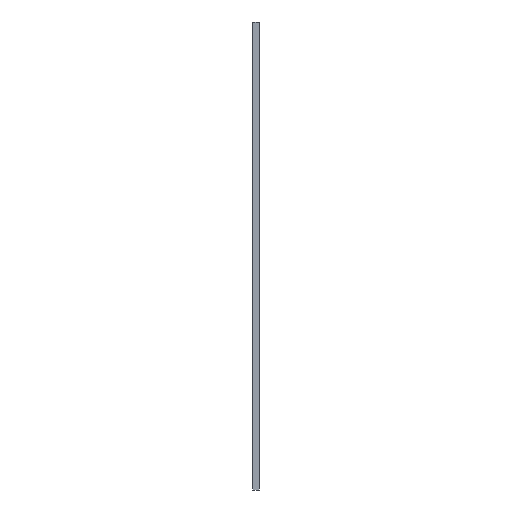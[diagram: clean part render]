
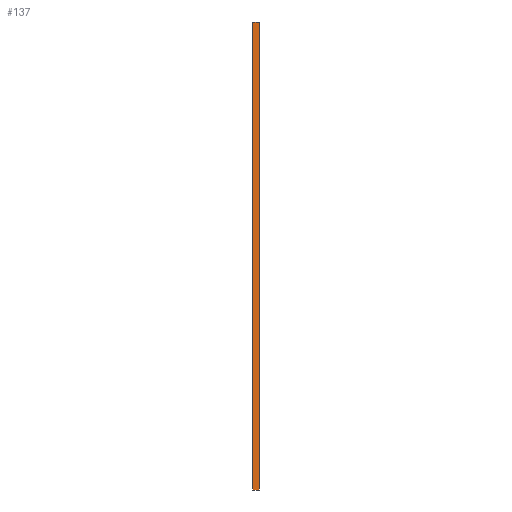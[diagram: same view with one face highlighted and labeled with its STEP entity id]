
A CAD part, left-side view. The second image highlights one B-rep face of the part: STEP entity #137.
In plain terms, the highlighted planar face has unit normal (-1, 0, 0).
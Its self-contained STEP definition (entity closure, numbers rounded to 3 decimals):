
#21 = EDGE_CURVE('',#22,#24,#26,.T.);
#22 = VERTEX_POINT('',#23);
#23 = CARTESIAN_POINT('',(-150.,-2.,-136.));
#24 = VERTEX_POINT('',#25);
#25 = CARTESIAN_POINT('',(-150.,2.,-136.));
#26 = SURFACE_CURVE('',#27,(#31,#43),.PCURVE_S1.);
#27 = LINE('',#28,#29);
#28 = CARTESIAN_POINT('',(-150.,-2.,-136.));
#29 = VECTOR('',#30,1.);
#30 = DIRECTION('',(0.,1.,0.));
#31 = PCURVE('',#32,#37);
#32 = PLANE('',#33);
#33 = AXIS2_PLACEMENT_3D('',#34,#35,#36);
#34 = CARTESIAN_POINT('',(-150.,0.,-136.));
#35 = DIRECTION('',(-0.,0.,1.));
#36 = DIRECTION('',(1.,0.,0.));
#37 = DEFINITIONAL_REPRESENTATION('',(#38),#42);
#38 = LINE('',#39,#40);
#39 = CARTESIAN_POINT('',(0.,-2.));
#40 = VECTOR('',#41,1.);
#41 = DIRECTION('',(0.,1.));
#42 = ( GEOMETRIC_REPRESENTATION_CONTEXT(2) 
PARAMETRIC_REPRESENTATION_CONTEXT() REPRESENTATION_CONTEXT('2D SPACE',''
  ) );
#43 = PCURVE('',#44,#49);
#44 = PLANE('',#45);
#45 = AXIS2_PLACEMENT_3D('',#46,#47,#48);
#46 = CARTESIAN_POINT('',(-150.,0.,136.));
#47 = DIRECTION('',(1.,0.,0.));
#48 = DIRECTION('',(0.,0.,-1.));
#49 = DEFINITIONAL_REPRESENTATION('',(#50),#54);
#50 = LINE('',#51,#52);
#51 = CARTESIAN_POINT('',(272.,-2.));
#52 = VECTOR('',#53,1.);
#53 = DIRECTION('',(0.,1.));
#54 = ( GEOMETRIC_REPRESENTATION_CONTEXT(2) 
PARAMETRIC_REPRESENTATION_CONTEXT() REPRESENTATION_CONTEXT('2D SPACE',''
  ) );
#72 = PLANE('',#73);
#73 = AXIS2_PLACEMENT_3D('',#74,#75,#76);
#74 = CARTESIAN_POINT('',(-17.256,-2.,0.));
#75 = DIRECTION('',(-0.,-1.,-0.));
#76 = DIRECTION('',(0.,0.,-1.));
#126 = PLANE('',#127);
#127 = AXIS2_PLACEMENT_3D('',#128,#129,#130);
#128 = CARTESIAN_POINT('',(-17.256,2.,0.));
#129 = DIRECTION('',(-0.,-1.,-0.));
#130 = DIRECTION('',(0.,0.,-1.));
#137 = ADVANCED_FACE('',(#138),#44,.F.);
#138 = FACE_BOUND('',#139,.F.);
#139 = EDGE_LOOP('',(#140,#170,#191,#192));
#140 = ORIENTED_EDGE('',*,*,#141,.F.);
#141 = EDGE_CURVE('',#142,#144,#146,.T.);
#142 = VERTEX_POINT('',#143);
#143 = CARTESIAN_POINT('',(-150.,-2.,136.));
#144 = VERTEX_POINT('',#145);
#145 = CARTESIAN_POINT('',(-150.,2.,136.));
#146 = SURFACE_CURVE('',#147,(#151,#158),.PCURVE_S1.);
#147 = LINE('',#148,#149);
#148 = CARTESIAN_POINT('',(-150.,-2.,136.));
#149 = VECTOR('',#150,1.);
#150 = DIRECTION('',(0.,1.,0.));
#151 = PCURVE('',#44,#152);
#152 = DEFINITIONAL_REPRESENTATION('',(#153),#157);
#153 = LINE('',#154,#155);
#154 = CARTESIAN_POINT('',(0.,-2.));
#155 = VECTOR('',#156,1.);
#156 = DIRECTION('',(0.,1.));
#157 = ( GEOMETRIC_REPRESENTATION_CONTEXT(2) 
PARAMETRIC_REPRESENTATION_CONTEXT() REPRESENTATION_CONTEXT('2D SPACE',''
  ) );
#158 = PCURVE('',#159,#164);
#159 = PLANE('',#160);
#160 = AXIS2_PLACEMENT_3D('',#161,#162,#163);
#161 = CARTESIAN_POINT('',(78.,0.,136.));
#162 = DIRECTION('',(-0.,-0.,-1.));
#163 = DIRECTION('',(-1.,0.,0.));
#164 = DEFINITIONAL_REPRESENTATION('',(#165),#169);
#165 = LINE('',#166,#167);
#166 = CARTESIAN_POINT('',(228.,-2.));
#167 = VECTOR('',#168,1.);
#168 = DIRECTION('',(0.,1.));
#169 = ( GEOMETRIC_REPRESENTATION_CONTEXT(2) 
PARAMETRIC_REPRESENTATION_CONTEXT() REPRESENTATION_CONTEXT('2D SPACE',''
  ) );
#170 = ORIENTED_EDGE('',*,*,#171,.T.);
#171 = EDGE_CURVE('',#142,#22,#172,.T.);
#172 = SURFACE_CURVE('',#173,(#177,#184),.PCURVE_S1.);
#173 = LINE('',#174,#175);
#174 = CARTESIAN_POINT('',(-150.,-2.,136.));
#175 = VECTOR('',#176,1.);
#176 = DIRECTION('',(0.,0.,-1.));
#177 = PCURVE('',#44,#178);
#178 = DEFINITIONAL_REPRESENTATION('',(#179),#183);
#179 = LINE('',#180,#181);
#180 = CARTESIAN_POINT('',(0.,-2.));
#181 = VECTOR('',#182,1.);
#182 = DIRECTION('',(1.,0.));
#183 = ( GEOMETRIC_REPRESENTATION_CONTEXT(2) 
PARAMETRIC_REPRESENTATION_CONTEXT() REPRESENTATION_CONTEXT('2D SPACE',''
  ) );
#184 = PCURVE('',#72,#185);
#185 = DEFINITIONAL_REPRESENTATION('',(#186),#190);
#186 = LINE('',#187,#188);
#187 = CARTESIAN_POINT('',(-136.,-132.744));
#188 = VECTOR('',#189,1.);
#189 = DIRECTION('',(1.,0.));
#190 = ( GEOMETRIC_REPRESENTATION_CONTEXT(2) 
PARAMETRIC_REPRESENTATION_CONTEXT() REPRESENTATION_CONTEXT('2D SPACE',''
  ) );
#191 = ORIENTED_EDGE('',*,*,#21,.T.);
#192 = ORIENTED_EDGE('',*,*,#193,.F.);
#193 = EDGE_CURVE('',#144,#24,#194,.T.);
#194 = SURFACE_CURVE('',#195,(#199,#206),.PCURVE_S1.);
#195 = LINE('',#196,#197);
#196 = CARTESIAN_POINT('',(-150.,2.,136.));
#197 = VECTOR('',#198,1.);
#198 = DIRECTION('',(0.,0.,-1.));
#199 = PCURVE('',#44,#200);
#200 = DEFINITIONAL_REPRESENTATION('',(#201),#205);
#201 = LINE('',#202,#203);
#202 = CARTESIAN_POINT('',(0.,2.));
#203 = VECTOR('',#204,1.);
#204 = DIRECTION('',(1.,0.));
#205 = ( GEOMETRIC_REPRESENTATION_CONTEXT(2) 
PARAMETRIC_REPRESENTATION_CONTEXT() REPRESENTATION_CONTEXT('2D SPACE',''
  ) );
#206 = PCURVE('',#126,#207);
#207 = DEFINITIONAL_REPRESENTATION('',(#208),#212);
#208 = LINE('',#209,#210);
#209 = CARTESIAN_POINT('',(-136.,-132.744));
#210 = VECTOR('',#211,1.);
#211 = DIRECTION('',(1.,0.));
#212 = ( GEOMETRIC_REPRESENTATION_CONTEXT(2) 
PARAMETRIC_REPRESENTATION_CONTEXT() REPRESENTATION_CONTEXT('2D SPACE',''
  ) );
